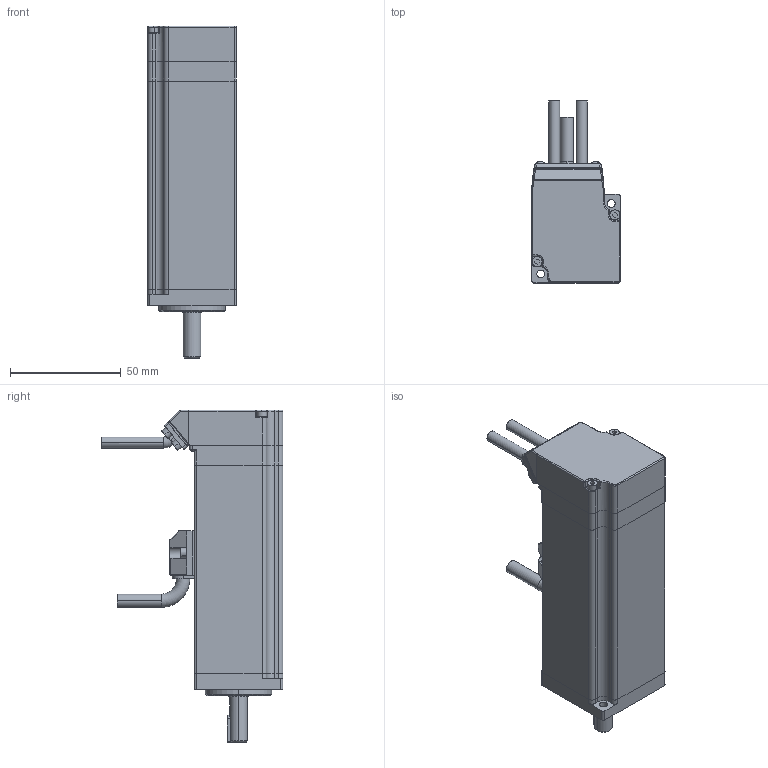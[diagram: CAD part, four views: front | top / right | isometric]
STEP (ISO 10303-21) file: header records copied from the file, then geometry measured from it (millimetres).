
FILE_DESCRIPTION (( 'STEP AP203' ), '1' );
FILE_NAME ('萇儂軞蚾-L40-BL(A1+S1).STEP', '2021-10-26T07:33:22', ( '' ), ( '' ), 'SwSTEP 2.0', 'SolidWorks 2018', '' );
FILE_SCHEMA (( 'CONFIG_CONTROL_DESIGN' ));
Length unit declared in the file: millimetre
Products named in the file (1): 萇儂軞蚾-L40-BL(A1+S1)
Bounding box: 40 x 82.04 x 150 mm (x, y, z)
Volume: 90159.2 mm3; surface area: 63076.1 mm2
Topology: 24 solids, 24 shells, 908 faces, 2207 edges, 1389 vertices
Faces by surface type: cylinder 410, plane 334, cone 122, torus 23, sphere 13, bspline 6
Entity records: 27305 total; most frequent: CARTESIAN_POINT 5191, DIRECTION 4904, ORIENTED_EDGE 4382, EDGE_CURVE 2191, AXIS2_PLACEMENT_3D 1876, VERTEX_POINT 1387, VECTOR 1152, LINE 1152
